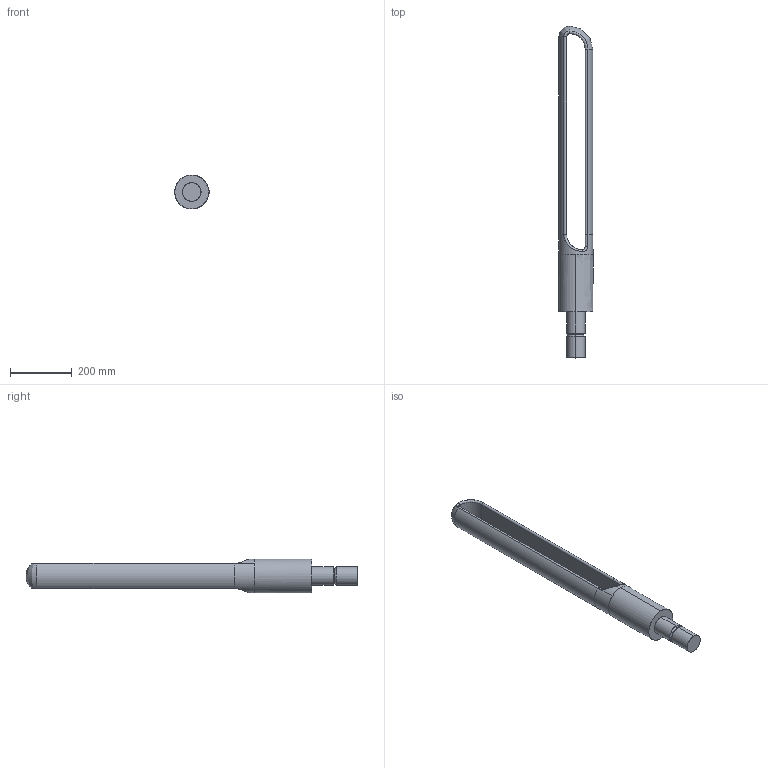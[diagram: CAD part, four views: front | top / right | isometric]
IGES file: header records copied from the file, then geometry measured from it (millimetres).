
Start section: SolidWorks IGES file using analytic representation for surfaces
Global section: file name: C:\SANTACOLE_PDM\I2\Productos de catálogo\outdoor\Mobiliario\Sammy\6_TECNICO COMERCIAL\3D WEB\Pilona Sammy.IGS; native system: SolidWorks 2013; preprocessor: SolidWorks 2013; author: jordi.munoz; date: 150807.092102; units: millimetre
Bounding box: 111.5 x 1075 x 110 mm (x, y, z)
Surface area: 381065.5 mm2 (no closed solid volume)
Topology: 0 solids, 0 shells, 390 faces, 3556 edges, 3556 vertices
Faces by surface type: bspline 367, revolution 23
